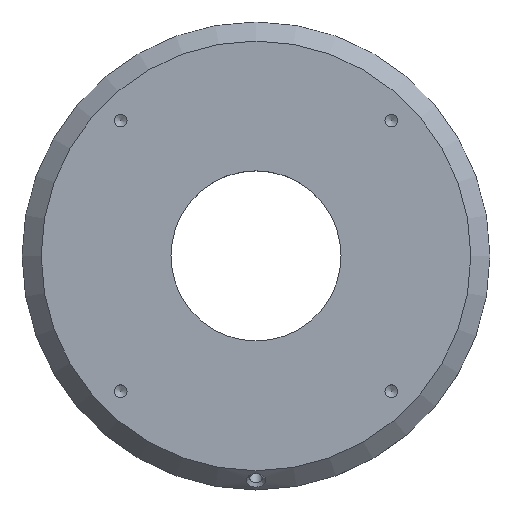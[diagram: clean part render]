
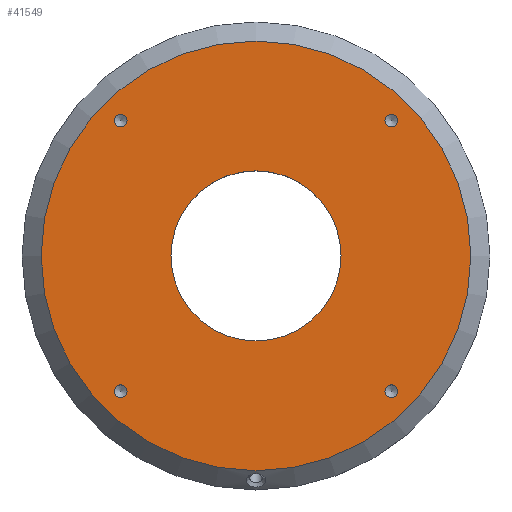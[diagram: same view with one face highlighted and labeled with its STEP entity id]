
A CAD part, top view. The second image highlights one B-rep face of the part: STEP entity #41549.
In plain terms, the highlighted planar face has unit normal (0, 0, 1).
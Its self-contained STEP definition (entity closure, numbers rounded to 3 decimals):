
#40742=CARTESIAN_POINT('',(-31.82,30.32,18.0));
#40743=VERTEX_POINT('',#40742);
#40744=CARTESIAN_POINT('',(-31.82,31.82,18.0));
#40745=DIRECTION('',(0.0,0.0,-1.0));
#40746=DIRECTION('',(0.0,-1.0,0.0));
#40747=AXIS2_PLACEMENT_3D('',#40744,#40745,#40746);
#40748=CIRCLE('',#40747,1.5);
#40749=EDGE_CURVE('',#40743,#40743,#40748,.T.);
#40821=CARTESIAN_POINT('',(30.32,31.82,18.0));
#40822=VERTEX_POINT('',#40821);
#40823=CARTESIAN_POINT('',(31.82,31.82,18.0));
#40824=DIRECTION('',(0.0,0.0,-1.0));
#40825=DIRECTION('',(-1.0,0.0,0.0));
#40826=AXIS2_PLACEMENT_3D('',#40823,#40824,#40825);
#40827=CIRCLE('',#40826,1.5);
#40828=EDGE_CURVE('',#40822,#40822,#40827,.T.);
#40900=CARTESIAN_POINT('',(31.82,-30.32,18.0));
#40901=VERTEX_POINT('',#40900);
#40902=CARTESIAN_POINT('',(31.82,-31.82,18.0));
#40903=DIRECTION('',(0.0,0.0,-1.0));
#40904=DIRECTION('',(0.0,1.0,0.0));
#40905=AXIS2_PLACEMENT_3D('',#40902,#40903,#40904);
#40906=CIRCLE('',#40905,1.5);
#40907=EDGE_CURVE('',#40901,#40901,#40906,.T.);
#40979=CARTESIAN_POINT('',(-30.32,-31.82,18.0));
#40980=VERTEX_POINT('',#40979);
#40981=CARTESIAN_POINT('',(-31.82,-31.82,18.0));
#40982=DIRECTION('',(0.0,0.0,-1.0));
#40983=DIRECTION('',(1.0,0.0,0.0));
#40984=AXIS2_PLACEMENT_3D('',#40981,#40982,#40983);
#40985=CIRCLE('',#40984,1.5);
#40986=EDGE_CURVE('',#40980,#40980,#40985,.T.);
#41148=CARTESIAN_POINT('',(50.5,0.,18.0));
#41149=VERTEX_POINT('',#41148);
#41150=CARTESIAN_POINT('',(0.0,0.0,18.0));
#41151=DIRECTION('',(0.0,0.0,-1.0));
#41152=DIRECTION('',(-1.0,0.0,0.0));
#41153=AXIS2_PLACEMENT_3D('',#41150,#41151,#41152);
#41154=CIRCLE('',#41153,50.5);
#41155=EDGE_CURVE('',#41149,#41149,#41154,.T.);
#41518=CARTESIAN_POINT('',(0.0,0.0,18.0));
#41519=DIRECTION('',(0.0,0.0,-1.0));
#41520=DIRECTION('',(-1.0,0.0,0.0));
#41521=AXIS2_PLACEMENT_3D('',#41518,#41519,#41520);
#41522=PLANE('',#41521);
#41523=ORIENTED_EDGE('',*,*,#41155,.F.);
#41524=EDGE_LOOP('',(#41523));
#41525=FACE_OUTER_BOUND('',#41524,.T.);
#41526=ORIENTED_EDGE('',*,*,#40749,.T.);
#41527=EDGE_LOOP('',(#41526));
#41528=FACE_BOUND('',#41527,.T.);
#41529=ORIENTED_EDGE('',*,*,#40828,.T.);
#41530=EDGE_LOOP('',(#41529));
#41531=FACE_BOUND('',#41530,.T.);
#41532=ORIENTED_EDGE('',*,*,#40907,.T.);
#41533=EDGE_LOOP('',(#41532));
#41534=FACE_BOUND('',#41533,.T.);
#41535=ORIENTED_EDGE('',*,*,#40986,.T.);
#41536=EDGE_LOOP('',(#41535));
#41537=FACE_BOUND('',#41536,.T.);
#41538=CARTESIAN_POINT('',(20.0,0.,18.0));
#41539=VERTEX_POINT('',#41538);
#41540=CARTESIAN_POINT('',(0.0,0.0,18.0));
#41541=DIRECTION('',(0.0,0.0,-1.0));
#41542=DIRECTION('',(-1.0,0.0,0.0));
#41543=AXIS2_PLACEMENT_3D('',#41540,#41541,#41542);
#41544=CIRCLE('',#41543,20.0);
#41545=EDGE_CURVE('',#41539,#41539,#41544,.T.);
#41546=ORIENTED_EDGE('',*,*,#41545,.T.);
#41547=EDGE_LOOP('',(#41546));
#41548=FACE_BOUND('',#41547,.T.);
#41549=ADVANCED_FACE('',(#41525,#41528,#41531,#41534,#41537,#41548),#41522,.F.);
